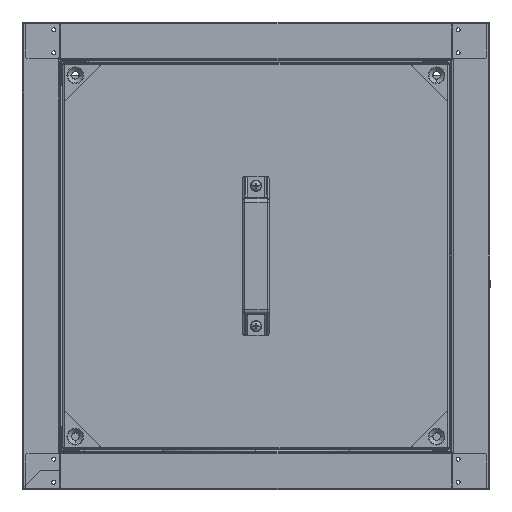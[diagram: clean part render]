
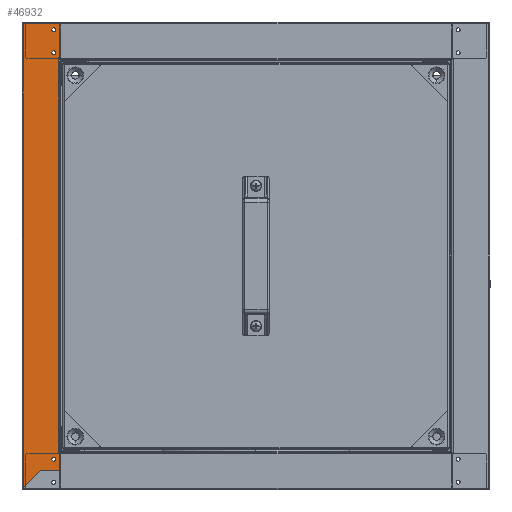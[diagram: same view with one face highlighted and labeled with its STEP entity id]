
A CAD part, left-side view. The second image highlights one B-rep face of the part: STEP entity #46932.
In plain terms, the highlighted planar face has unit normal (-1, 0, 0).
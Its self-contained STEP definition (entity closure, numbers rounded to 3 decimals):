
#20 = VERTEX_POINT ( 'NONE', #50260 ) ;
#303 = CARTESIAN_POINT ( 'NONE',  ( -250., 216., -217.2 ) ) ;
#329 = VECTOR ( 'NONE', #19700, 1000. ) ;
#1854 = FACE_OUTER_BOUND ( 'NONE', #40515, .T. ) ;
#2502 = VECTOR ( 'NONE', #31739, 1000. ) ;
#2987 = DIRECTION ( 'NONE',  ( 0., 0., -1. ) ) ;
#3138 = ORIENTED_EDGE ( 'NONE', *, *, #18873, .T. ) ;
#3502 = VERTEX_POINT ( 'NONE', #41089 ) ;
#3530 = CIRCLE ( 'NONE', #4943, 2.1 ) ;
#3538 = CIRCLE ( 'NONE', #46462, 2.1 ) ;
#4258 = DIRECTION ( 'NONE',  ( 0., -1., 0. ) ) ;
#4336 = LINE ( 'NONE', #37335, #43518 ) ;
#4376 = CARTESIAN_POINT ( 'NONE',  ( -250., 210.2, -229.1 ) ) ;
#4628 = CARTESIAN_POINT ( 'NONE',  ( -250., 210.2, 248. ) ) ;
#4943 = AXIS2_PLACEMENT_3D ( 'NONE', #303, #27672, #4258 ) ;
#5151 = AXIS2_PLACEMENT_3D ( 'NONE', #9824, #37196, #13766 ) ;
#5846 = EDGE_CURVE ( 'NONE', #20811, #27895, #38620, .T. ) ;
#6432 = ORIENTED_EDGE ( 'NONE', *, *, #11451, .T. ) ;
#6739 = CARTESIAN_POINT ( 'NONE',  ( -250., 210.7, 248.95 ) ) ;
#7557 = VERTEX_POINT ( 'NONE', #23758 ) ;
#7873 = DIRECTION ( 'NONE',  ( -1., 0., 0. ) ) ;
#8620 = AXIS2_PLACEMENT_3D ( 'NONE', #22528, #49948, #26456 ) ;
#8707 = EDGE_CURVE ( 'NONE', #18479, #33452, #12698, .T. ) ;
#9215 = DIRECTION ( 'NONE',  ( 0., 0., 1. ) ) ;
#9326 = DIRECTION ( 'NONE',  ( 0., -1., 0. ) ) ;
#9343 = ORIENTED_EDGE ( 'NONE', *, *, #23700, .T. ) ;
#9634 = ORIENTED_EDGE ( 'NONE', *, *, #23910, .T. ) ;
#9798 = DIRECTION ( 'NONE',  ( 0., 0., -1. ) ) ;
#9824 = CARTESIAN_POINT ( 'NONE',  ( -250., 216., -217.2 ) ) ;
#10674 = AXIS2_PLACEMENT_3D ( 'NONE', #35100, #11665, #39065 ) ;
#10793 = CARTESIAN_POINT ( 'NONE',  ( -250., 216., 241.7 ) ) ;
#10907 = EDGE_CURVE ( 'NONE', #20, #19339, #43598, .T. ) ;
#11451 = EDGE_CURVE ( 'NONE', #3502, #28484, #37365, .T. ) ;
#11665 = DIRECTION ( 'NONE',  ( -1., 0., 0. ) ) ;
#11908 = LINE ( 'NONE', #32825, #19865 ) ;
#12299 = DIRECTION ( 'NONE',  ( 0., 1., 0. ) ) ;
#12341 = VECTOR ( 'NONE', #12299, 1000. ) ;
#12517 = ORIENTED_EDGE ( 'NONE', *, *, #34583, .F. ) ;
#12698 = CIRCLE ( 'NONE', #13747, 2.1 ) ;
#12820 = ORIENTED_EDGE ( 'NONE', *, *, #30252, .F. ) ;
#13747 = AXIS2_PLACEMENT_3D ( 'NONE', #10793, #38150, #14725 ) ;
#13766 = DIRECTION ( 'NONE',  ( 0., -1., 0. ) ) ;
#14151 = CARTESIAN_POINT ( 'NONE',  ( -250., 250., 248.95 ) ) ;
#14261 = CARTESIAN_POINT ( 'NONE',  ( -250., 210.7, -210.05 ) ) ;
#14363 = EDGE_CURVE ( 'NONE', #7557, #47530, #37653, .T. ) ;
#14725 = DIRECTION ( 'NONE',  ( 0., -1., 0. ) ) ;
#16114 = DIRECTION ( 'NONE',  ( 0., 0., 1. ) ) ;
#16648 = CARTESIAN_POINT ( 'NONE',  ( -250., 213.9, -217.2 ) ) ;
#16694 = CARTESIAN_POINT ( 'NONE',  ( -250., 248., 248. ) ) ;
#17673 = ORIENTED_EDGE ( 'NONE', *, *, #49650, .F. ) ;
#18052 = LINE ( 'NONE', #27730, #37634 ) ;
#18060 = EDGE_LOOP ( 'NONE', ( #12820, #18663 ) ) ;
#18479 = VERTEX_POINT ( 'NONE', #37468 ) ;
#18663 = ORIENTED_EDGE ( 'NONE', *, *, #14363, .F. ) ;
#18873 = EDGE_CURVE ( 'NONE', #30160, #37280, #11908, .T. ) ;
#19290 = VERTEX_POINT ( 'NONE', #43764 ) ;
#19339 = VERTEX_POINT ( 'NONE', #16694 ) ;
#19700 = DIRECTION ( 'NONE',  ( 0., 0.707, -0.707 ) ) ;
#19865 = VECTOR ( 'NONE', #36748, 1000. ) ;
#20811 = VERTEX_POINT ( 'NONE', #50440 ) ;
#20995 = CARTESIAN_POINT ( 'NONE',  ( -250., 210.2, 211.65 ) ) ;
#21148 = ORIENTED_EDGE ( 'NONE', *, *, #28774, .F. ) ;
#21170 = ORIENTED_EDGE ( 'NONE', *, *, #27626, .T. ) ;
#22009 = DIRECTION ( 'NONE',  ( 1., 0., 0. ) ) ;
#22155 = CARTESIAN_POINT ( 'NONE',  ( -250., 213.9, 241.7 ) ) ;
#22528 = CARTESIAN_POINT ( 'NONE',  ( -250., 216., 217.2 ) ) ;
#23238 = VERTEX_POINT ( 'NONE', #27835 ) ;
#23700 = EDGE_CURVE ( 'NONE', #23238, #50185, #44167, .T. ) ;
#23758 = CARTESIAN_POINT ( 'NONE',  ( -250., 218.1, 217.2 ) ) ;
#23868 = VECTOR ( 'NONE', #2987, 1000. ) ;
#23910 = EDGE_CURVE ( 'NONE', #19339, #19290, #4336, .T. ) ;
#25432 = LINE ( 'NONE', #20995, #34584 ) ;
#26456 = DIRECTION ( 'NONE',  ( 0., -1., 0. ) ) ;
#26961 = VECTOR ( 'NONE', #9326, 1000. ) ;
#27626 = EDGE_CURVE ( 'NONE', #50185, #30160, #18052, .T. ) ;
#27672 = DIRECTION ( 'NONE',  ( -1., 0., 0. ) ) ;
#27730 = CARTESIAN_POINT ( 'NONE',  ( -250., 210.2, -210.05 ) ) ;
#27835 = CARTESIAN_POINT ( 'NONE',  ( -250., 229.75, -229.1 ) ) ;
#27872 = LINE ( 'NONE', #43163, #329 ) ;
#27895 = VERTEX_POINT ( 'NONE', #16648 ) ;
#28484 = VERTEX_POINT ( 'NONE', #29585 ) ;
#28774 = EDGE_CURVE ( 'NONE', #27895, #20811, #3530, .T. ) ;
#29385 = FACE_BOUND ( 'NONE', #32661, .T. ) ;
#29585 = CARTESIAN_POINT ( 'NONE',  ( -250., 210.2, 211.65 ) ) ;
#30160 = VERTEX_POINT ( 'NONE', #41364 ) ;
#30252 = EDGE_CURVE ( 'NONE', #47530, #7557, #49312, .T. ) ;
#30783 = CARTESIAN_POINT ( 'NONE',  ( -250., 210.2, -229.1 ) ) ;
#31311 = CARTESIAN_POINT ( 'NONE',  ( -250., 216., 241.7 ) ) ;
#31739 = DIRECTION ( 'NONE',  ( 0., -1., 0. ) ) ;
#31843 = FACE_BOUND ( 'NONE', #18060, .T. ) ;
#32661 = EDGE_LOOP ( 'NONE', ( #12517, #33402 ) ) ;
#32825 = CARTESIAN_POINT ( 'NONE',  ( -250., 210.7, -210.05 ) ) ;
#33402 = ORIENTED_EDGE ( 'NONE', *, *, #8707, .F. ) ;
#33452 = VERTEX_POINT ( 'NONE', #22155 ) ;
#33911 = EDGE_CURVE ( 'NONE', #3502, #37280, #34232, .T. ) ;
#34232 = LINE ( 'NONE', #6739, #23868 ) ;
#34583 = EDGE_CURVE ( 'NONE', #33452, #18479, #3538, .T. ) ;
#34584 = VECTOR ( 'NONE', #9215, 1000. ) ;
#35100 = CARTESIAN_POINT ( 'NONE',  ( -250., 216., 217.2 ) ) ;
#35215 = DIRECTION ( 'NONE',  ( 0., -1., 0. ) ) ;
#36064 = ORIENTED_EDGE ( 'NONE', *, *, #5846, .F. ) ;
#36576 = EDGE_CURVE ( 'NONE', #28484, #20, #25432, .T. ) ;
#36748 = DIRECTION ( 'NONE',  ( 0., 1., 0. ) ) ;
#37196 = DIRECTION ( 'NONE',  ( -1., 0., 0. ) ) ;
#37280 = VERTEX_POINT ( 'NONE', #14261 ) ;
#37335 = CARTESIAN_POINT ( 'NONE',  ( -250., 248., 248.95 ) ) ;
#37365 = LINE ( 'NONE', #48387, #26961 ) ;
#37468 = CARTESIAN_POINT ( 'NONE',  ( -250., 218.1, 241.7 ) ) ;
#37569 = PLANE ( 'NONE',  #44867 ) ;
#37634 = VECTOR ( 'NONE', #16114, 1000. ) ;
#37653 = CIRCLE ( 'NONE', #10674, 2.1 ) ;
#38150 = DIRECTION ( 'NONE',  ( -1., 0., 0. ) ) ;
#38485 = ORIENTED_EDGE ( 'NONE', *, *, #10907, .T. ) ;
#38620 = CIRCLE ( 'NONE', #5151, 2.1 ) ;
#38737 = CARTESIAN_POINT ( 'NONE',  ( -250., 213.9, 217.2 ) ) ;
#39065 = DIRECTION ( 'NONE',  ( 0., -1., 0. ) ) ;
#40515 = EDGE_LOOP ( 'NONE', ( #38485, #9634, #17673, #9343, #21170, #3138, #48506, #6432, #40940 ) ) ;
#40940 = ORIENTED_EDGE ( 'NONE', *, *, #36576, .T. ) ;
#41089 = CARTESIAN_POINT ( 'NONE',  ( -250., 210.7, 211.65 ) ) ;
#41364 = CARTESIAN_POINT ( 'NONE',  ( -250., 210.2, -210.05 ) ) ;
#43163 = CARTESIAN_POINT ( 'NONE',  ( -250., 249.1, -248.45 ) ) ;
#43518 = VECTOR ( 'NONE', #9798, 1000. ) ;
#43598 = LINE ( 'NONE', #4628, #12341 ) ;
#43764 = CARTESIAN_POINT ( 'NONE',  ( -250., 248., -247.35 ) ) ;
#44167 = LINE ( 'NONE', #4376, #2502 ) ;
#44867 = AXIS2_PLACEMENT_3D ( 'NONE', #14151, #22009, #49454 ) ;
#46462 = AXIS2_PLACEMENT_3D ( 'NONE', #31311, #7873, #35215 ) ;
#46932 = ADVANCED_FACE ( 'NONE', ( #50245, #31843, #29385, #1854 ), #37569, .F. ) ;
#47530 = VERTEX_POINT ( 'NONE', #38737 ) ;
#48387 = CARTESIAN_POINT ( 'NONE',  ( -250., 210.7, 211.65 ) ) ;
#48506 = ORIENTED_EDGE ( 'NONE', *, *, #33911, .F. ) ;
#49312 = CIRCLE ( 'NONE', #8620, 2.1 ) ;
#49454 = DIRECTION ( 'NONE',  ( 0., 1., 0. ) ) ;
#49650 = EDGE_CURVE ( 'NONE', #23238, #19290, #27872, .T. ) ;
#49948 = DIRECTION ( 'NONE',  ( -1., 0., 0. ) ) ;
#50185 = VERTEX_POINT ( 'NONE', #30783 ) ;
#50245 = FACE_BOUND ( 'NONE', #50517, .T. ) ;
#50260 = CARTESIAN_POINT ( 'NONE',  ( -250., 210.2, 248. ) ) ;
#50440 = CARTESIAN_POINT ( 'NONE',  ( -250., 218.1, -217.2 ) ) ;
#50517 = EDGE_LOOP ( 'NONE', ( #21148, #36064 ) ) ;
